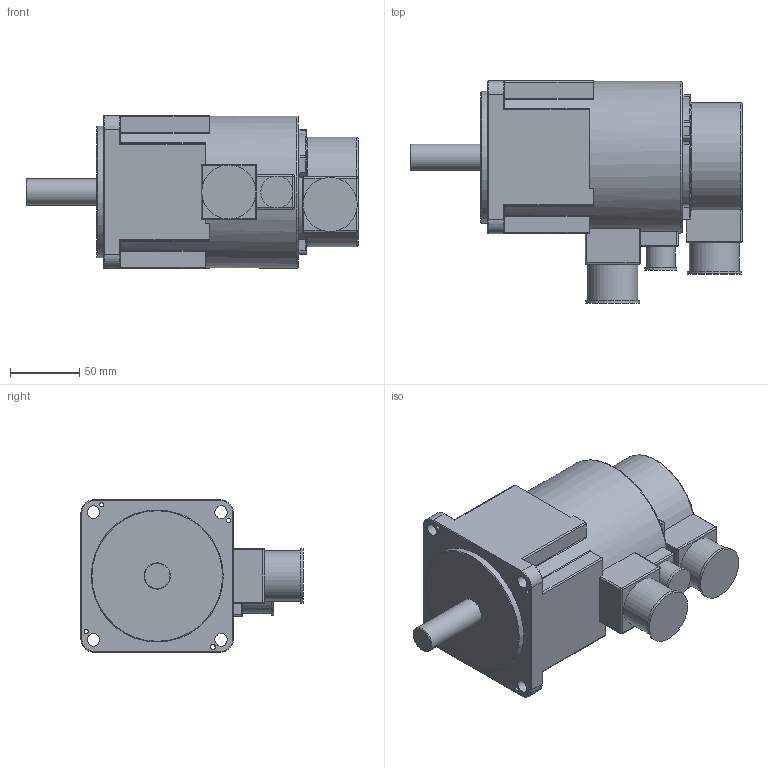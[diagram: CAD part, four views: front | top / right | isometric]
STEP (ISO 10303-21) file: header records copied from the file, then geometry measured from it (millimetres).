
FILE_DESCRIPTION(/* description */ (''),/* implementation_level */ '2;1');
FILE_NAME(/* name */ '110GSL04030(110GAL04020)-FZ.stp',/* time_stamp */ '2019-11-22T14:09:42+08:00',/* author */ (''),/* organization */ (''),/* preprocessor_version */ 'ST-DEVELOPER v16',/* originating_system */ 'SIEMENS PLM Software NX 10.0',/* authorisation */ '');
FILE_SCHEMA (('CONFIG_CONTROL_DESIGN'));
Length unit declared in the file: millimetre
Products named in the file (1): 110GSL04030(110GAL04020)-FZ
Bounding box: 239 x 160 x 110 mm (x, y, z)
Volume: 1829015.2 mm3; surface area: 109826.4 mm2
Topology: 1 solids, 1 shells, 224 faces, 574 edges, 339 vertices
Faces by surface type: cylinder 109, plane 66, torus 20, bspline 15, sphere 10, cone 4
Full cylindrical faces by diameter (mm): 3 x3, 3.3 x1, 9 x4, 19 x1, 21 x1, 23 x1, 36 x2, 39 x2, 95 x1, 109.5 x1
Entity records: 7869 total; most frequent: CARTESIAN_POINT 2659, DIRECTION 1074, ORIENTED_EDGE 1044, EDGE_CURVE 522, AXIS2_PLACEMENT_3D 417, VERTEX_POINT 331, EDGE_LOOP 271, LINE 240
